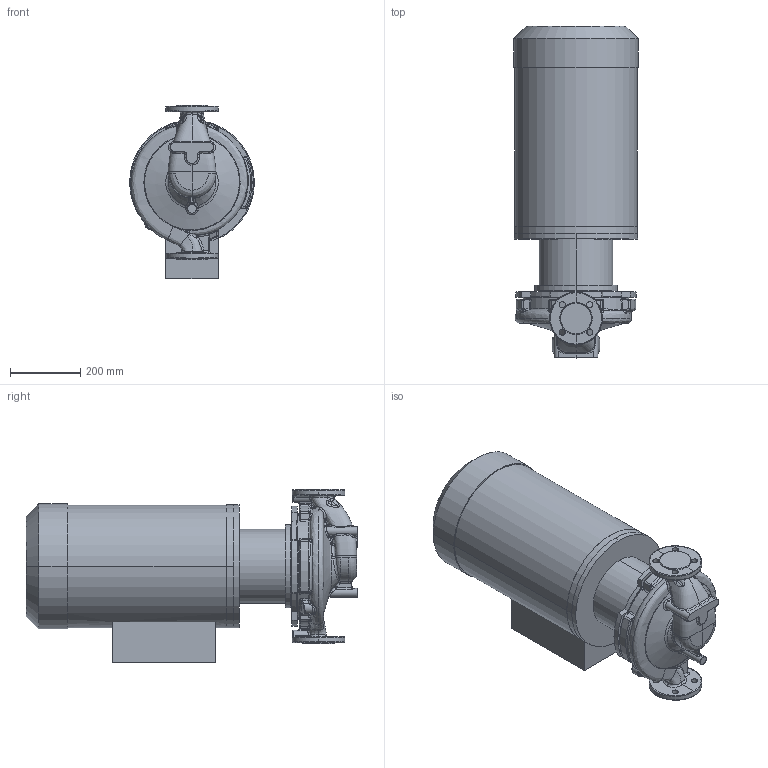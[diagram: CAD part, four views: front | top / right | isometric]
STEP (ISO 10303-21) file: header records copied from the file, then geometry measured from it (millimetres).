
FILE_DESCRIPTION (( 'STEP AP214' ), '1' );
FILE_NAME ('KRL 40-250-2-22.STEP', '2026-03-19T09:53:16', ( '' ), ( '' ), 'SwSTEP 2.0', 'SolidWorks 2016', '' );
FILE_SCHEMA (( 'AUTOMOTIVE_DESIGN' ));
Length unit declared in the file: millimetre
Products named in the file (1): KRL 40-250-2-22
Bounding box: 355 x 944.3 x 495 mm (x, y, z)
Volume: 78975622 mm3; surface area: 1898473.9 mm2
Topology: 4 solids, 4 shells, 661 faces, 1579 edges, 926 vertices
Faces by surface type: bspline 316, cylinder 130, plane 95, sphere 44, cone 42, torus 34
Entity records: 67064 total; most frequent: CARTESIAN_POINT 47170, ORIENTED_EDGE 3120, DIRECTION 1982, EDGE_CURVE 1560, VERTEX_POINT 926, AXIS2_PLACEMENT_3D 870, EDGE_LOOP 696, UNCERTAINTY_MEASURE_WITH_UNIT 667
